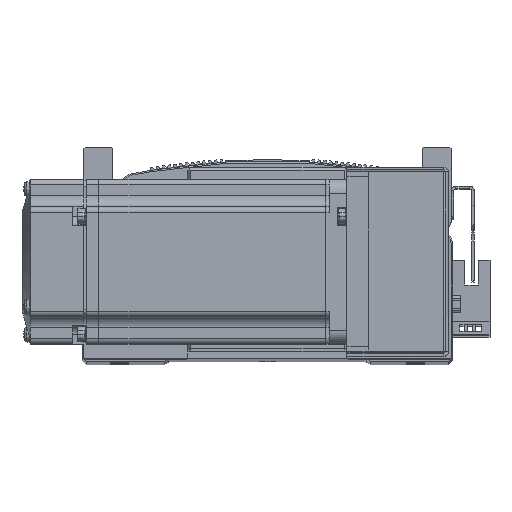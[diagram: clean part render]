
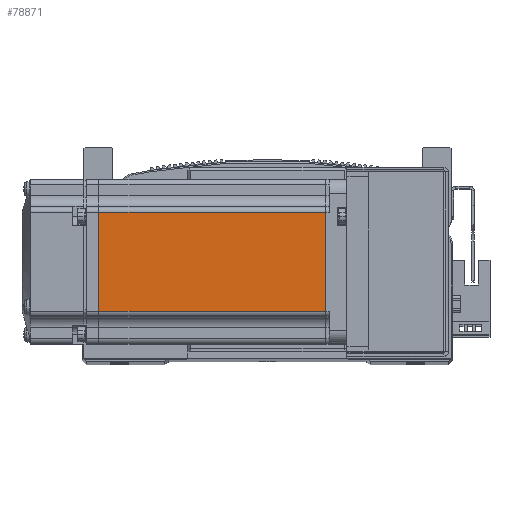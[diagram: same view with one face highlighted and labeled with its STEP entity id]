
A CAD part, top view. The second image highlights one B-rep face of the part: STEP entity #78871.
In plain terms, the highlighted planar face has unit normal (0, 0, 1) as drawn and (0, -1, 0) by its records, which use the part's own axes.
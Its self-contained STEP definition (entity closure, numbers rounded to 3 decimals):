
#13529 = DIRECTION ( 'NONE',  ( 0., 0., -1. ) ) ;
#13580 = CARTESIAN_POINT ( 'NONE',  ( -7.75, -30., 0. ) ) ;
#19863 = CARTESIAN_POINT ( 'NONE',  ( -7.75, -30., -18. ) ) ;
#19868 = CARTESIAN_POINT ( 'NONE',  ( -90.45, -30., -18. ) ) ;
#19869 = CARTESIAN_POINT ( 'NONE',  ( -7.75, -30., 18. ) ) ;
#19888 = CARTESIAN_POINT ( 'NONE',  ( -90.45, -30., 18. ) ) ;
#25509 = FACE_OUTER_BOUND ( 'NONE', #51110, .T. ) ;
#27279 = CARTESIAN_POINT ( 'NONE',  ( -6.5, -30., -25. ) ) ;
#27298 = DIRECTION ( 'NONE',  ( 0., 0., -1. ) ) ;
#27321 = PLANE ( 'NONE',  #34296 ) ;
#27323 = DIRECTION ( 'NONE',  ( 0., -1., 0. ) ) ;
#34296 = AXIS2_PLACEMENT_3D ( 'NONE', #27279, #27323, #27298 ) ;
#38123 = CARTESIAN_POINT ( 'NONE',  ( -6.5, -30., -18. ) ) ;
#38132 = DIRECTION ( 'NONE',  ( -1., 0., 0. ) ) ;
#38164 = CARTESIAN_POINT ( 'NONE',  ( -6.5, -30., 18. ) ) ;
#38166 = CARTESIAN_POINT ( 'NONE',  ( -90.45, -30., 0. ) ) ;
#38194 = DIRECTION ( 'NONE',  ( -1., 0., 0. ) ) ;
#38212 = DIRECTION ( 'NONE',  ( 0., 0., -1. ) ) ;
#41343 = VECTOR ( 'NONE', #38212, 1000. ) ;
#41346 = VECTOR ( 'NONE', #38194, 1000. ) ;
#41392 = VECTOR ( 'NONE', #38132, 1000. ) ;
#41410 = LINE ( 'NONE', #38164, #41346 ) ;
#41415 = LINE ( 'NONE', #38166, #41343 ) ;
#41461 = LINE ( 'NONE', #38123, #41392 ) ;
#41500 = LINE ( 'NONE', #13580, #41516 ) ;
#41516 = VECTOR ( 'NONE', #13529, 1000. ) ;
#42666 = VERTEX_POINT ( 'NONE', #19863 ) ;
#42695 = VERTEX_POINT ( 'NONE', #19868 ) ;
#42718 = VERTEX_POINT ( 'NONE', #19869 ) ;
#42721 = VERTEX_POINT ( 'NONE', #19888 ) ;
#51110 = EDGE_LOOP ( 'NONE', ( #77147, #77040, #77146, #77154 ) ) ;
#69700 = EDGE_CURVE ( 'NONE', #42666, #42695, #41461, .T. ) ;
#69716 = EDGE_CURVE ( 'NONE', #42718, #42721, #41410, .T. ) ;
#69722 = EDGE_CURVE ( 'NONE', #42721, #42695, #41415, .T. ) ;
#69763 = EDGE_CURVE ( 'NONE', #42718, #42666, #41500, .T. ) ;
#77040 = ORIENTED_EDGE ( 'NONE', *, *, #69716, .T. ) ;
#77146 = ORIENTED_EDGE ( 'NONE', *, *, #69722, .T. ) ;
#77147 = ORIENTED_EDGE ( 'NONE', *, *, #69763, .F. ) ;
#77154 = ORIENTED_EDGE ( 'NONE', *, *, #69700, .F. ) ;
#78871 = ADVANCED_FACE ( 'NONE', ( #25509 ), #27321, .T. ) ;
